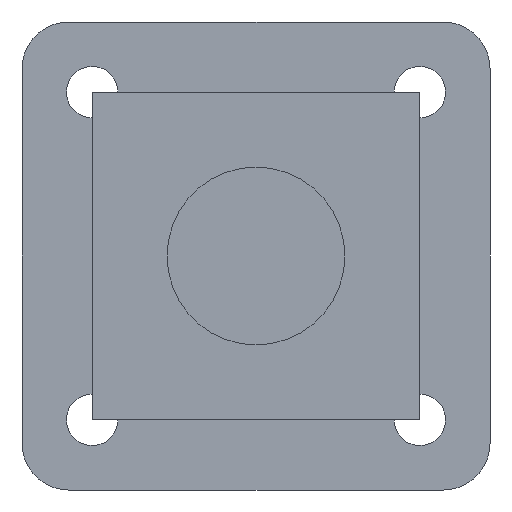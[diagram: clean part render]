
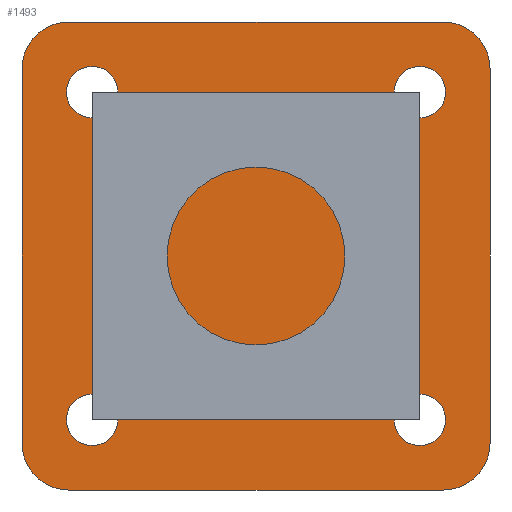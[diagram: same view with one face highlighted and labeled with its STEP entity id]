
A CAD part, front view. The second image highlights one B-rep face of the part: STEP entity #1493.
In plain terms, the highlighted planar face has unit normal (0, -1, 0).
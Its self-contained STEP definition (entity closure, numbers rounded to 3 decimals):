
#15 = DIRECTION ( 'NONE',  ( -1., 0., 0. ) ) ;
#35 = FACE_BOUND ( 'NONE', #1884, .T. ) ;
#58 = EDGE_CURVE ( 'NONE', #328, #2749, #580, .T. ) ;
#87 = FACE_BOUND ( 'NONE', #3736, .T. ) ;
#108 = VERTEX_POINT ( 'NONE', #265 ) ;
#132 = CARTESIAN_POINT ( 'NONE',  ( -40., 0., -40. ) ) ;
#147 = EDGE_CURVE ( 'NONE', #3929, #3432, #149, .T. ) ;
#149 = CIRCLE ( 'NONE', #1671, 5.5 ) ;
#169 = AXIS2_PLACEMENT_3D ( 'NONE', #1489, #4241, #325 ) ;
#213 = FACE_OUTER_BOUND ( 'NONE', #4110, .T. ) ;
#234 = ORIENTED_EDGE ( 'NONE', *, *, #2113, .T. ) ;
#265 = CARTESIAN_POINT ( 'NONE',  ( -40., 0., -50. ) ) ;
#269 = ORIENTED_EDGE ( 'NONE', *, *, #147, .T. ) ;
#297 = EDGE_CURVE ( 'NONE', #4618, #2684, #3718, .T. ) ;
#325 = DIRECTION ( 'NONE',  ( 0., 0., 1. ) ) ;
#328 = VERTEX_POINT ( 'NONE', #1775 ) ;
#350 = CARTESIAN_POINT ( 'NONE',  ( -40., 0., 50. ) ) ;
#429 = CARTESIAN_POINT ( 'NONE',  ( -50., 0., -50. ) ) ;
#437 = DIRECTION ( 'NONE',  ( 0., 0., 1. ) ) ;
#439 = VECTOR ( 'NONE', #15, 1000. ) ;
#533 = VERTEX_POINT ( 'NONE', #566 ) ;
#566 = CARTESIAN_POINT ( 'NONE',  ( -50., 0., -40. ) ) ;
#580 = CIRCLE ( 'NONE', #1414, 5.5 ) ;
#587 = DIRECTION ( 'NONE',  ( 0., -1., 0. ) ) ;
#626 = AXIS2_PLACEMENT_3D ( 'NONE', #3176, #3192, #3943 ) ;
#643 = LINE ( 'NONE', #1679, #1306 ) ;
#663 = DIRECTION ( 'NONE',  ( 0., 1., 0. ) ) ;
#676 = CARTESIAN_POINT ( 'NONE',  ( 35., 0., -29.5 ) ) ;
#683 = VERTEX_POINT ( 'NONE', #2588 ) ;
#794 = AXIS2_PLACEMENT_3D ( 'NONE', #2006, #3611, #1198 ) ;
#879 = DIRECTION ( 'NONE',  ( 0., 0., 1. ) ) ;
#895 = CARTESIAN_POINT ( 'NONE',  ( 35., 0., 35. ) ) ;
#930 = DIRECTION ( 'NONE',  ( 0., 0., 1. ) ) ;
#1041 = ORIENTED_EDGE ( 'NONE', *, *, #3083, .T. ) ;
#1114 = VERTEX_POINT ( 'NONE', #4364 ) ;
#1129 = CARTESIAN_POINT ( 'NONE',  ( -35., 0., -40.5 ) ) ;
#1133 = CARTESIAN_POINT ( 'NONE',  ( -50., 0., 40. ) ) ;
#1135 = CIRCLE ( 'NONE', #169, 10. ) ;
#1188 = AXIS2_PLACEMENT_3D ( 'NONE', #2305, #3926, #1554 ) ;
#1198 = DIRECTION ( 'NONE',  ( 0., 0., 1. ) ) ;
#1306 = VECTOR ( 'NONE', #2845, 1000. ) ;
#1399 = VERTEX_POINT ( 'NONE', #1458 ) ;
#1414 = AXIS2_PLACEMENT_3D ( 'NONE', #1418, #3812, #3368 ) ;
#1418 = CARTESIAN_POINT ( 'NONE',  ( -35., 0., 35. ) ) ;
#1458 = CARTESIAN_POINT ( 'NONE',  ( 50., 0., 40. ) ) ;
#1489 = CARTESIAN_POINT ( 'NONE',  ( 40., 0., -40. ) ) ;
#1493 = ADVANCED_FACE ( 'NONE', ( #2042, #3206, #35, #87, #213 ), #4295, .F. ) ;
#1554 = DIRECTION ( 'NONE',  ( 0., 0., 1. ) ) ;
#1598 = EDGE_LOOP ( 'NONE', ( #2319, #4222 ) ) ;
#1671 = AXIS2_PLACEMENT_3D ( 'NONE', #2175, #663, #3407 ) ;
#1679 = CARTESIAN_POINT ( 'NONE',  ( 50., 0., -50. ) ) ;
#1729 = EDGE_CURVE ( 'NONE', #533, #2684, #2594, .T. ) ;
#1751 = ORIENTED_EDGE ( 'NONE', *, *, #3667, .T. ) ;
#1775 = CARTESIAN_POINT ( 'NONE',  ( -35., 0., 40.5 ) ) ;
#1838 = CARTESIAN_POINT ( 'NONE',  ( 40., 0., 40. ) ) ;
#1865 = DIRECTION ( 'NONE',  ( 0., 0., 1. ) ) ;
#1879 = EDGE_CURVE ( 'NONE', #1399, #2493, #643, .T. ) ;
#1884 = EDGE_LOOP ( 'NONE', ( #3559, #269 ) ) ;
#1893 = ORIENTED_EDGE ( 'NONE', *, *, #3917, .T. ) ;
#1930 = CIRCLE ( 'NONE', #4193, 5.5 ) ;
#1947 = VERTEX_POINT ( 'NONE', #2082 ) ;
#2006 = CARTESIAN_POINT ( 'NONE',  ( -35., 0., -35. ) ) ;
#2042 = FACE_BOUND ( 'NONE', #1598, .T. ) ;
#2062 = EDGE_LOOP ( 'NONE', ( #1893, #1041 ) ) ;
#2066 = ORIENTED_EDGE ( 'NONE', *, *, #3127, .T. ) ;
#2082 = CARTESIAN_POINT ( 'NONE',  ( 35., 0., 29.5 ) ) ;
#2096 = CARTESIAN_POINT ( 'NONE',  ( 35., 0., -35. ) ) ;
#2113 = EDGE_CURVE ( 'NONE', #533, #108, #4708, .T. ) ;
#2148 = EDGE_CURVE ( 'NONE', #3432, #3929, #1930, .T. ) ;
#2175 = CARTESIAN_POINT ( 'NONE',  ( 35., 0., -35. ) ) ;
#2204 = ORIENTED_EDGE ( 'NONE', *, *, #1879, .F. ) ;
#2241 = CARTESIAN_POINT ( 'NONE',  ( -35., 0., 35. ) ) ;
#2282 = CIRCLE ( 'NONE', #794, 5.5 ) ;
#2295 = AXIS2_PLACEMENT_3D ( 'NONE', #2241, #3439, #1865 ) ;
#2305 = CARTESIAN_POINT ( 'NONE',  ( 0., 0., 0. ) ) ;
#2319 = ORIENTED_EDGE ( 'NONE', *, *, #58, .T. ) ;
#2399 = CIRCLE ( 'NONE', #3503, 5.5 ) ;
#2453 = DIRECTION ( 'NONE',  ( 0., 1., 0. ) ) ;
#2490 = DIRECTION ( 'NONE',  ( 0., 0., 1. ) ) ;
#2493 = VERTEX_POINT ( 'NONE', #4642 ) ;
#2514 = DIRECTION ( 'NONE',  ( 0., 0., 1. ) ) ;
#2547 = ORIENTED_EDGE ( 'NONE', *, *, #3857, .F. ) ;
#2588 = CARTESIAN_POINT ( 'NONE',  ( 40., 0., -50. ) ) ;
#2594 = LINE ( 'NONE', #4328, #4824 ) ;
#2663 = CARTESIAN_POINT ( 'NONE',  ( -50., 0., 50. ) ) ;
#2683 = ORIENTED_EDGE ( 'NONE', *, *, #297, .T. ) ;
#2684 = VERTEX_POINT ( 'NONE', #1133 ) ;
#2749 = VERTEX_POINT ( 'NONE', #3426 ) ;
#2825 = CIRCLE ( 'NONE', #2295, 5.5 ) ;
#2845 = DIRECTION ( 'NONE',  ( 0., 0., -1. ) ) ;
#2901 = DIRECTION ( 'NONE',  ( 0., -1., 0. ) ) ;
#2983 = DIRECTION ( 'NONE',  ( 1., 0., 0. ) ) ;
#3013 = EDGE_CURVE ( 'NONE', #2749, #328, #2825, .T. ) ;
#3014 = VECTOR ( 'NONE', #2983, 1000. ) ;
#3083 = EDGE_CURVE ( 'NONE', #1947, #4620, #3521, .T. ) ;
#3127 = EDGE_CURVE ( 'NONE', #1114, #4485, #2399, .T. ) ;
#3138 = LINE ( 'NONE', #429, #439 ) ;
#3176 = CARTESIAN_POINT ( 'NONE',  ( 35., 0., 35. ) ) ;
#3192 = DIRECTION ( 'NONE',  ( 0., 1., 0. ) ) ;
#3206 = FACE_BOUND ( 'NONE', #2062, .T. ) ;
#3247 = CARTESIAN_POINT ( 'NONE',  ( 35., 0., -40.5 ) ) ;
#3368 = DIRECTION ( 'NONE',  ( 0., 0., 1. ) ) ;
#3407 = DIRECTION ( 'NONE',  ( 0., 0., 1. ) ) ;
#3417 = DIRECTION ( 'NONE',  ( 0., 0., 1. ) ) ;
#3426 = CARTESIAN_POINT ( 'NONE',  ( -35., 0., 29.5 ) ) ;
#3432 = VERTEX_POINT ( 'NONE', #676 ) ;
#3439 = DIRECTION ( 'NONE',  ( 0., 1., 0. ) ) ;
#3478 = EDGE_CURVE ( 'NONE', #4485, #1114, #2282, .T. ) ;
#3501 = CARTESIAN_POINT ( 'NONE',  ( 35., 0., 40.5 ) ) ;
#3503 = AXIS2_PLACEMENT_3D ( 'NONE', #3989, #4339, #437 ) ;
#3508 = EDGE_CURVE ( 'NONE', #1399, #4442, #3582, .T. ) ;
#3521 = CIRCLE ( 'NONE', #626, 5.5 ) ;
#3559 = ORIENTED_EDGE ( 'NONE', *, *, #2148, .T. ) ;
#3582 = CIRCLE ( 'NONE', #4133, 10. ) ;
#3611 = DIRECTION ( 'NONE',  ( 0., 1., 0. ) ) ;
#3649 = AXIS2_PLACEMENT_3D ( 'NONE', #132, #2901, #930 ) ;
#3667 = EDGE_CURVE ( 'NONE', #683, #2493, #1135, .T. ) ;
#3718 = CIRCLE ( 'NONE', #4587, 10. ) ;
#3736 = EDGE_LOOP ( 'NONE', ( #2066, #3886 ) ) ;
#3774 = ORIENTED_EDGE ( 'NONE', *, *, #1729, .F. ) ;
#3812 = DIRECTION ( 'NONE',  ( 0., 1., 0. ) ) ;
#3823 = DIRECTION ( 'NONE',  ( 0., -1., 0. ) ) ;
#3847 = AXIS2_PLACEMENT_3D ( 'NONE', #895, #2453, #879 ) ;
#3857 = EDGE_CURVE ( 'NONE', #683, #108, #3138, .T. ) ;
#3886 = ORIENTED_EDGE ( 'NONE', *, *, #3478, .T. ) ;
#3917 = EDGE_CURVE ( 'NONE', #4620, #1947, #3962, .T. ) ;
#3926 = DIRECTION ( 'NONE',  ( 0., 1., 0. ) ) ;
#3929 = VERTEX_POINT ( 'NONE', #3247 ) ;
#3943 = DIRECTION ( 'NONE',  ( 0., 0., 1. ) ) ;
#3962 = CIRCLE ( 'NONE', #3847, 5.5 ) ;
#3989 = CARTESIAN_POINT ( 'NONE',  ( -35., 0., -35. ) ) ;
#4074 = LINE ( 'NONE', #2663, #3014 ) ;
#4110 = EDGE_LOOP ( 'NONE', ( #2204, #4920, #4810, #2683, #3774, #234, #2547, #1751 ) ) ;
#4133 = AXIS2_PLACEMENT_3D ( 'NONE', #1838, #3823, #3417 ) ;
#4193 = AXIS2_PLACEMENT_3D ( 'NONE', #2096, #4867, #2490 ) ;
#4222 = ORIENTED_EDGE ( 'NONE', *, *, #3013, .T. ) ;
#4241 = DIRECTION ( 'NONE',  ( 0., -1., 0. ) ) ;
#4295 = PLANE ( 'NONE',  #1188 ) ;
#4328 = CARTESIAN_POINT ( 'NONE',  ( -50., 0., -50. ) ) ;
#4339 = DIRECTION ( 'NONE',  ( 0., 1., 0. ) ) ;
#4364 = CARTESIAN_POINT ( 'NONE',  ( -35., 0., -29.5 ) ) ;
#4377 = DIRECTION ( 'NONE',  ( 0., 0., 1. ) ) ;
#4442 = VERTEX_POINT ( 'NONE', #4710 ) ;
#4485 = VERTEX_POINT ( 'NONE', #1129 ) ;
#4516 = CARTESIAN_POINT ( 'NONE',  ( -40., 0., 40. ) ) ;
#4587 = AXIS2_PLACEMENT_3D ( 'NONE', #4516, #587, #2514 ) ;
#4618 = VERTEX_POINT ( 'NONE', #350 ) ;
#4620 = VERTEX_POINT ( 'NONE', #3501 ) ;
#4642 = CARTESIAN_POINT ( 'NONE',  ( 50., 0., -40. ) ) ;
#4708 = CIRCLE ( 'NONE', #3649, 10. ) ;
#4710 = CARTESIAN_POINT ( 'NONE',  ( 40., 0., 50. ) ) ;
#4810 = ORIENTED_EDGE ( 'NONE', *, *, #4971, .F. ) ;
#4824 = VECTOR ( 'NONE', #4377, 1000. ) ;
#4867 = DIRECTION ( 'NONE',  ( 0., 1., 0. ) ) ;
#4920 = ORIENTED_EDGE ( 'NONE', *, *, #3508, .T. ) ;
#4971 = EDGE_CURVE ( 'NONE', #4618, #4442, #4074, .T. ) ;
